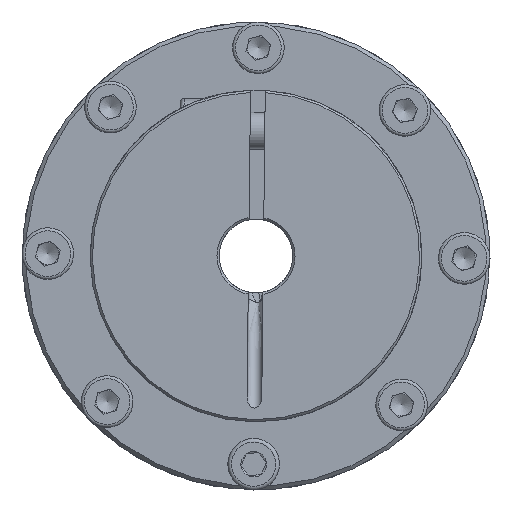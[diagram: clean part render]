
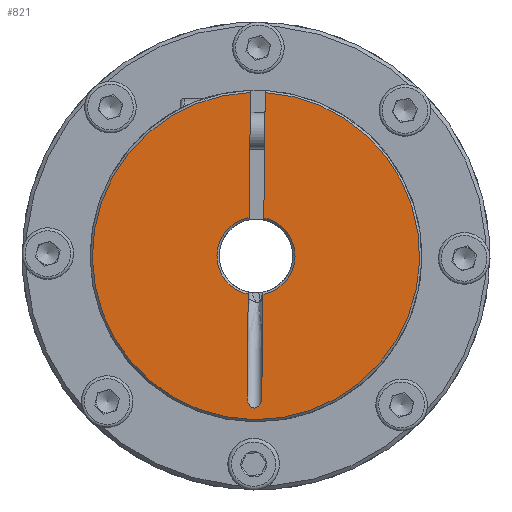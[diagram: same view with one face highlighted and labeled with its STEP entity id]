
A CAD part, left-side view. The second image highlights one B-rep face of the part: STEP entity #821.
In plain terms, the highlighted planar face has unit normal (-1, 0, 0).
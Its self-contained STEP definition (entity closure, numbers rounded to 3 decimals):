
#821 = ADVANCED_FACE( 'NONE', ( #1683 ), #1684, .F. );
#1683 = FACE_OUTER_BOUND( '', #3107, .T. );
#1684 = PLANE( '', #3108 );
#3107 = EDGE_LOOP( '', ( #4488, #4489, #4490, #4491, #4492, #4493, #4494, #4495 ) );
#3108 = AXIS2_PLACEMENT_3D( '', #4496, #4497, #4498 );
#4488 = ORIENTED_EDGE( '', *, *, #5599, .F. );
#4489 = ORIENTED_EDGE( '', *, *, #5600, .T. );
#4490 = ORIENTED_EDGE( '', *, *, #5601, .T. );
#4491 = ORIENTED_EDGE( '', *, *, #5602, .T. );
#4492 = ORIENTED_EDGE( '', *, *, #5258, .T. );
#4493 = ORIENTED_EDGE( '', *, *, #5565, .T. );
#4494 = ORIENTED_EDGE( '', *, *, #5603, .F. );
#4495 = ORIENTED_EDGE( '', *, *, #5561, .T. );
#4496 = CARTESIAN_POINT( '', ( 0., 5., 0. ) );
#4497 = DIRECTION( '', ( 1., 0., 0. ) );
#4498 = DIRECTION( '', ( 0., 1., 0. ) );
#5258 = EDGE_CURVE( 'NONE', #5943, #5944, #5945, .T. );
#5561 = EDGE_CURVE( 'NONE', #6396, #6394, #6397, .T. );
#5565 = EDGE_CURVE( 'NONE', #5944, #6400, #6402, .F. );
#5599 = EDGE_CURVE( 'NONE', #6453, #6394, #6454, .F. );
#5600 = EDGE_CURVE( 'NONE', #6453, #6455, #6456, .T. );
#5601 = EDGE_CURVE( 'NONE', #6455, #6457, #6458, .T. );
#5602 = EDGE_CURVE( 'NONE', #6457, #5943, #6459, .T. );
#5603 = EDGE_CURVE( 'NONE', #6396, #6400, #6460, .F. );
#5943 = VERTEX_POINT( 'NONE', #6896 );
#5944 = VERTEX_POINT( 'NONE', #6897 );
#5945 = LINE( '', #6898, #6899 );
#6394 = VERTEX_POINT( 'NONE', #7624 );
#6396 = VERTEX_POINT( 'NONE', #7629 );
#6397 = CIRCLE( '', #7630, 5.3 );
#6400 = VERTEX_POINT( 'NONE', #7636 );
#6402 = CIRCLE( '', #7641, 22.2 );
#6453 = VERTEX_POINT( 'NONE', #7698 );
#6454 = LINE( '', #7699, #7700 );
#6455 = VERTEX_POINT( 'NONE', #7701 );
#6456 = B_SPLINE_CURVE_WITH_KNOTS( '', 3, ( #7702, #7703, #7704, #7705, #7706, #7707, #7708, #7709, #7710, #7711, #7712, #7713, #7714, #7715, #7716, #7717, #7718, #7719 ), .UNSPECIFIED., .F., .F., ( 4, 2, 2, 2, 2, 2, 2, 2, 4 ), ( 0., 0., 0.001, 0.001, 0.002, 0.002, 0.003, 0.003, 0.004 ), .UNSPECIFIED. );
#6457 = VERTEX_POINT( 'NONE', #7720 );
#6458 = LINE( '', #7721, #7722 );
#6459 = CIRCLE( '', #7723, 5.3 );
#6460 = LINE( '', #7724, #7725 );
#6896 = CARTESIAN_POINT( '', ( 0., 1., 5.205 ) );
#6897 = CARTESIAN_POINT( '', ( 0., 1., 22.177 ) );
#6898 = CARTESIAN_POINT( '', ( 0., 1., 0. ) );
#6899 = VECTOR( '', #8085, 1000. );
#7624 = CARTESIAN_POINT( '', ( 0., -1., -5.205 ) );
#7629 = CARTESIAN_POINT( '', ( 0., -1., 5.205 ) );
#7630 = AXIS2_PLACEMENT_3D( '', #8517, #8518, #8519 );
#7636 = CARTESIAN_POINT( '', ( 0., -1., 22.177 ) );
#7641 = AXIS2_PLACEMENT_3D( '', #8520, #8521, #8522 );
#7698 = CARTESIAN_POINT( '', ( 0., -1., -19.125 ) );
#7699 = CARTESIAN_POINT( '', ( 0., -1., 13. ) );
#7700 = VECTOR( '', #8574, 1000. );
#7701 = CARTESIAN_POINT( '', ( 0., 1., -19.125 ) );
#7702 = CARTESIAN_POINT( '', ( 0., -1., -19.125 ) );
#7703 = CARTESIAN_POINT( '', ( 0., -1., -19.291 ) );
#7704 = CARTESIAN_POINT( '', ( 0., -0.983, -19.455 ) );
#7705 = CARTESIAN_POINT( '', ( 0., -0.91, -19.775 ) );
#7706 = CARTESIAN_POINT( '', ( 0., -0.854, -19.934 ) );
#7707 = CARTESIAN_POINT( '', ( 0., -0.697, -20.225 ) );
#7708 = CARTESIAN_POINT( '', ( 0., -0.593, -20.36 ) );
#7709 = CARTESIAN_POINT( '', ( 0., -0.33, -20.564 ) );
#7710 = CARTESIAN_POINT( '', ( 0., -0.169, -20.63 ) );
#7711 = CARTESIAN_POINT( '', ( 0., 0.168, -20.63 ) );
#7712 = CARTESIAN_POINT( '', ( 0., 0.328, -20.566 ) );
#7713 = CARTESIAN_POINT( '', ( 0., 0.592, -20.361 ) );
#7714 = CARTESIAN_POINT( '', ( 0., 0.695, -20.227 ) );
#7715 = CARTESIAN_POINT( '', ( 0., 0.854, -19.936 ) );
#7716 = CARTESIAN_POINT( '', ( 0., 0.909, -19.78 ) );
#7717 = CARTESIAN_POINT( '', ( 0., 0.983, -19.456 ) );
#7718 = CARTESIAN_POINT( '', ( 0., 1., -19.291 ) );
#7719 = CARTESIAN_POINT( '', ( 0., 1., -19.125 ) );
#7720 = CARTESIAN_POINT( '', ( 0., 1., -5.205 ) );
#7721 = CARTESIAN_POINT( '', ( 0., 1., 0. ) );
#7722 = VECTOR( '', #8575, 1000. );
#7723 = AXIS2_PLACEMENT_3D( '', #8576, #8577, #8578 );
#7724 = CARTESIAN_POINT( '', ( 0., -1., 13. ) );
#7725 = VECTOR( '', #8579, 1000. );
#8085 = DIRECTION( '', ( 0., 0., 1. ) );
#8517 = CARTESIAN_POINT( '', ( 0., 0., 0. ) );
#8518 = DIRECTION( '', ( 1., 0., 0. ) );
#8519 = DIRECTION( '', ( 0., 0., -1. ) );
#8520 = CARTESIAN_POINT( '', ( 0., 0., 0. ) );
#8521 = DIRECTION( '', ( 1., 0., 0. ) );
#8522 = DIRECTION( '', ( 0., 0., -1. ) );
#8574 = DIRECTION( '', ( 0., 0., -1. ) );
#8575 = DIRECTION( '', ( 0., 0., 1. ) );
#8576 = CARTESIAN_POINT( '', ( 0., 0., 0. ) );
#8577 = DIRECTION( '', ( 1., 0., 0. ) );
#8578 = DIRECTION( '', ( 0., 0., -1. ) );
#8579 = DIRECTION( '', ( 0., 0., -1. ) );
